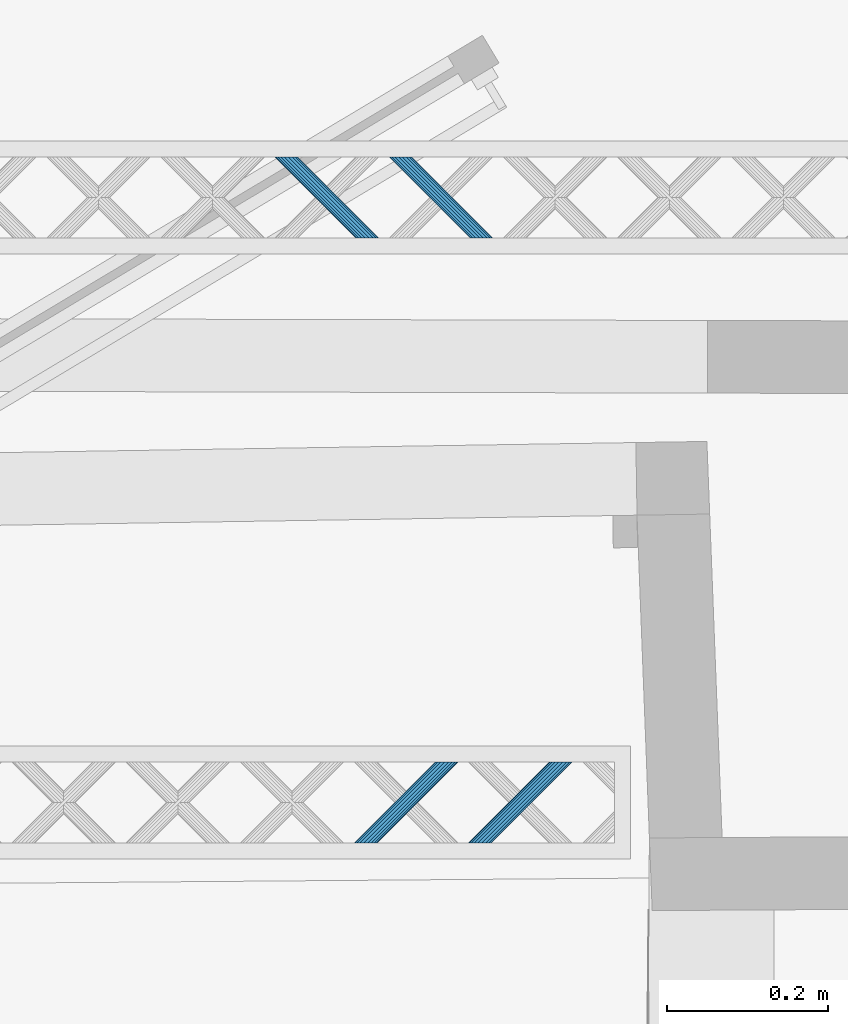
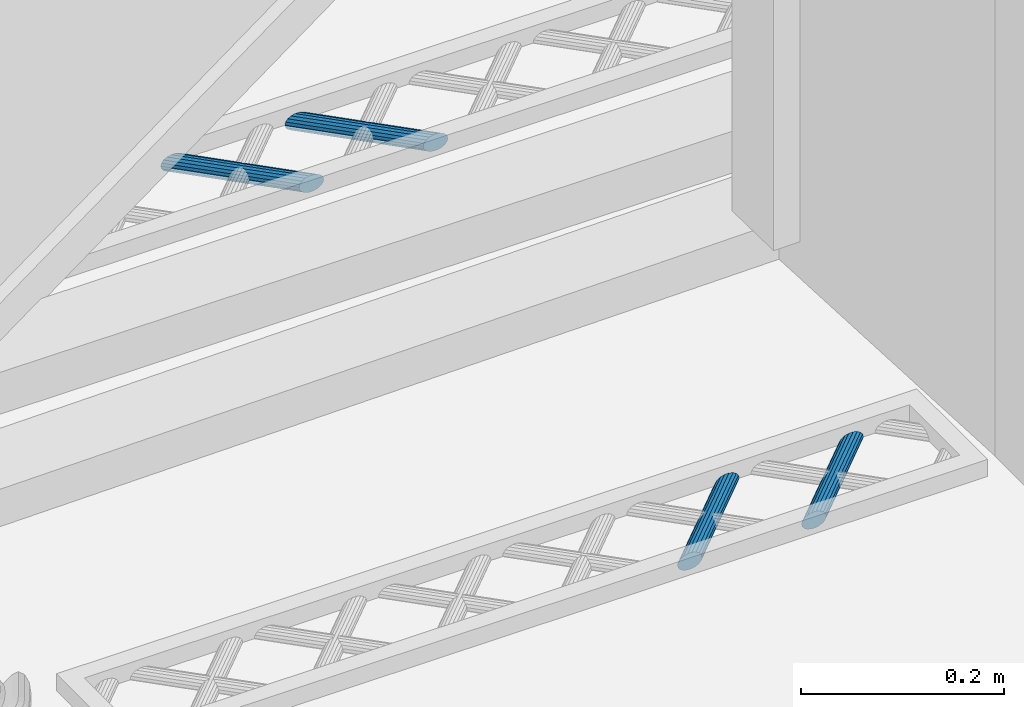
# One storey, part 70 of 133: 4 members, 2 elements without a shape of their own.
"""IFC2X3 building model written with IfcOpenShell, lengths in centimetres."""

from ifc_helpers import new_model, entity, si_unit, converted_unit, direction, frame, origin, origin_with_axes, place, context, subcontext, project, spatial, faceted_brep, material, type_object, element, aggregate, save


model = new_model("IFC2X3")

# Units and contexts
model_context = context("Model", 3, precision=0.0001, world=origin(), true_north=direction((0.225632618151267, 0.974212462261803, 0.0)))
body_context = subcontext(model_context, "Body", "Model", "MODEL_VIEW")
ifc_project = project(units=[si_unit("LENGTHUNIT", "METRE", prefix="CENTI"), si_unit("AREAUNIT", "SQUARE_METRE", prefix="CENTI"), si_unit("VOLUMEUNIT", "CUBIC_METRE", prefix="CENTI"), converted_unit("PLANEANGLEUNIT", "DEGREE", entity("IfcRatioMeasure", 0.0174532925), si_unit("PLANEANGLEUNIT", "RADIAN"), dimensions=[0, 0, 0, 0, 0, 0, 0])], contexts=[model_context])

# Site, building, storey
site_placement = place(None, origin_with_axes())
site = spatial("IfcSite", under=ifc_project, at=site_placement, Name="Default Site", CompositionType="ELEMENT")
building_placement = place(site_placement, origin_with_axes())
building = spatial("IfcBuilding", under=site, at=building_placement, Name="Default Building", CompositionType="ELEMENT")
storey_placement = place(building_placement, frame((0.0, 0.0, -291.400371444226), z_axis=(0.0, 0.0, 1.0), x_axis=(1.0, 0.0, 0.0)))
storey = spatial("IfcBuildingStorey", under=building, at=storey_placement, Name="Rez-de-Jardin", CompositionType="ELEMENT", Elevation=-291.400371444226)

# Assembly, members
building_element_proxy_type = type_object("IfcBuildingElementProxyType", Name="Type Object", PredefinedType="NOTDEFINED")
assembly_1_placement = place(storey_placement, frame((-322.682568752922, 627.125798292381, 0.0), z_axis=(0.0, 1.0, -2.38697950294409e-15), x_axis=(1.0, 0.0, 0.0)))
assembly_1 = element("IfcElementAssembly", 1, at=assembly_1_placement, inside=storey, type_object=building_element_proxy_type, Name="Panneau 92029", ObjectType="Precast panel", PredefinedType="USERDEFINED")
ifc_material = material(Name="Aluminium satiné")
member_1_placement = place(assembly_1_placement, frame((148.884272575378, 0.342020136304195, 1.99999995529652), z_axis=(1.16938344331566e-15, 1.43215300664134e-15, -1.0), x_axis=(-0.632467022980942, -0.774587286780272, -1.84892397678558e-15)))
member_1 = element("IfcMember", 2, at=member_1_placement, material=ifc_material, Name="4294966806", context=body_context, shape_type="Brep", body=[
    faceted_brep([(-4.44089209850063e-14, 4.44089209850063e-14, 1.74860126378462e-13), (-0.388293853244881, 4.44089209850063e-14, 1.75578052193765e-13), (-0.799168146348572, -0.150237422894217, 1.76337727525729e-13), (-1.18307839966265, -0.432607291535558, 1.77047548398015e-13), (-1.49371723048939, -0.813049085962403, 1.77621895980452e-13), (-1.69361285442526, -1.24567082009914, 1.77991487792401e-13), (-1.7586603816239, -1.67829855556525, 1.78111755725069e-13), (-1.68100535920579, -2.05874034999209, 1.77968177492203e-13), (-1.47002670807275, -2.34112464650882, 1.77578094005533e-13), (-1.15115646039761, -2.49137326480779, 1.76988527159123e-13), (-0.762870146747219, -2.49138249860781, 1.76270615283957e-13), (-0.351988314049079, -2.34113584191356, 1.75510926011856e-13), (0.0319219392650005, -2.05876597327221, 1.7480110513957e-13), (0.342560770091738, -1.67832417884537, 1.74226757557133e-13), (0.542456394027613, -1.24570244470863, 1.73857165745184e-13), (0.6074963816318, -0.813083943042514, 1.73736911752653e-13), (0.529848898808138, -0.432632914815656, 1.73880476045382e-13), (0.318862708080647, -0.150257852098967, 1.74270573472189e-13), (6.64353444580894, 7.59561686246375, -9.99999977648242), (6.85451309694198, 7.31323256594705, -9.99999977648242), (6.93216811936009, 6.9327907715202, -9.99999977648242), (6.86712059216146, 6.50016303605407, -9.99999977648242), (6.66722496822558, 6.06754130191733, -9.99999977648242), (6.35659367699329, 5.6871087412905, -9.99999977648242), (5.97268342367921, 5.40473887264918, -9.99999977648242), (5.56180159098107, 5.25449221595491, -9.99999977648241), (5.17351527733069, 5.25450144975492, -9.99999977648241), (4.85464502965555, 5.40475006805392, -9.99999977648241), (4.6436663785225, 5.68713436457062, -9.99999977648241), (4.56601135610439, 6.06757615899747, -9.99999977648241), (4.63105888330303, 6.5002038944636, -9.99999977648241), (4.83095450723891, 6.93282562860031, -9.99999977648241), (5.14158579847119, 7.31325818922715, -9.99999977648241), (5.52549605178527, 7.59562805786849, -9.99999977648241), (5.93637788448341, 7.74587471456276, -9.99999977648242), (6.3246641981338, 7.74586548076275, -9.99999977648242), (0.318862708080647, -0.150257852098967, 1.74513181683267e-13), (0.529846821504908, -0.432634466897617, -2.51604857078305e-06), (6.85451474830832, 7.31323379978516, -9.99999777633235), (6.64353340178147, 7.59561608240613, -10.0000010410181), (0.529848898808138, -0.432632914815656, 1.74166236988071e-13), (0.607499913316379, -0.813083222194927, 2.79203358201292e-06), (6.93217041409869, 6.93279123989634, -9.99999796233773), (6.85451751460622, 7.3132334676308, -9.9999962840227), (0.6074963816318, -0.813083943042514, 1.73819292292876e-13), (0.542453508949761, -1.24570201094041, -1.48872508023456e-06), (6.86712143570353, 6.50016290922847, -9.99999934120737), (6.93216707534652, 6.93279092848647, -10.0000003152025), (0.542456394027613, -1.24570244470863, 1.73819292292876e-13), (0.342560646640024, -1.67832412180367, -3.38951920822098e-08), (6.66722682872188, 6.0675404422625, -9.99999926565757), (6.86712257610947, 6.50016211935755, -9.9999992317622), (0.342560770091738, -1.67832417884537, 1.74166236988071e-13), (0.0319219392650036, -2.05876597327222, 1.74860126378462e-13), (6.3565936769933, 5.6871087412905, -9.99999977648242), (0.0319219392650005, -2.05876597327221, 1.74860126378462e-13), (-0.351988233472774, -2.34113595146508, -3.3895187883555e-08), (5.97268386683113, 5.40473827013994, -9.99999996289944), (6.3565940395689, 5.6871082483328, -9.99999992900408), (-0.351988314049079, -2.34113584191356, 1.75554015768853e-13), (-0.762870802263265, -2.49138070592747, 9.73995289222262e-07), (5.56180129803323, 5.25449301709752, -9.99999934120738), (5.97268378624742, 5.40473788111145, -10.0000003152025), (-0.762870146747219, -2.49138249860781, 1.76247905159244e-13), (-1.15115646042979, -2.49137543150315, -1.67831485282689e-06), (5.17351527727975, 5.25449802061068, -10.0000024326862), (5.56180159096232, 5.25449095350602, -10.0000007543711), (-1.15115646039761, -2.49137326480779, 1.7728873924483e-13), (-1.47002527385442, -2.34112160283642, 3.26468591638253e-06), (4.85464590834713, 5.40475193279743, -9.99999777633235), (5.17351472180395, 5.25450027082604, -10.0000010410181), (-1.47002670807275, -2.34112464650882, 1.77635683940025e-13), (-1.6810080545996, -2.05874236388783, -3.26468555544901e-06), (4.64366263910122, 5.68713157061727, -10.0000043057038), (4.85464398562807, 5.4047492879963, -10.0000010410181), (-1.68100535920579, -2.05874034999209, 1.7798262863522e-13), (-1.75865825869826, -1.67829812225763, 1.67831521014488e-06), (4.56601224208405, 6.06757633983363, -9.9999990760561), (4.64366514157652, 5.68713411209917, -10.0000007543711), (-1.7586603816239, -1.67829855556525, 1.78329573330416e-13), (-1.69361474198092, -1.24567053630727, -9.73994948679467e-07), (4.6310559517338, 6.50020433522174, -10.0000012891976), (4.56601031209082, 6.06757631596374, -10.0000003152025), (-1.69361285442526, -1.24567082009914, 1.78329573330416e-13), (-1.49371710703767, -0.813049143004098, 3.38955438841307e-08), (4.83095407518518, 6.93282582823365, -9.99999989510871), (4.6310583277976, 6.50020415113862, -9.99999992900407), (-1.49371723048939, -0.813049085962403, 1.77635683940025e-13), (-1.18307839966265, -0.432607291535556, 1.76941794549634e-13), (5.14158579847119, 7.31325818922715, -9.99999977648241), (-1.18307839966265, -0.432607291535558, 1.76941794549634e-13), (-0.799168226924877, -0.150237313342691, 3.3895540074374e-08), (5.52549467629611, 7.59562992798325, -9.99999919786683), (5.14158450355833, 7.31325994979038, -9.9999992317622), (-0.799168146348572, -0.150237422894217, 1.76594849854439e-13), (-0.388294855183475, 2.7400635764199e-06, 1.48872543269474e-06), (5.93637724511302, 7.74587646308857, -9.99999882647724), (5.52549475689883, 7.59563159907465, -9.99999785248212), (-0.388293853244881, 4.44089209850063e-14, 1.75900960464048e-13), (-5.35808416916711e-11, -3.60449953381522e-06, -2.7920332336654e-06), (6.32466419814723, 7.74586638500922, -9.99999907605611), (5.93637788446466, 7.74587345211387, -10.0000007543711), (0.318863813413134, -0.150255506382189, 2.51604891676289e-06), (6.64353499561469, 7.59561802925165, -9.99999852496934), (6.32466618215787, 7.74586969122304, -9.99999526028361)], [[[0, 1, 2, 3, 4, 5, 6, 7, 8, 9, 10, 11, 12, 13, 14, 15, 16, 17]], [[18, 19, 20, 21, 22, 23, 24, 25, 26, 27, 28, 29, 30, 31, 32, 33, 34, 35]], [[36, 37, 38, 39]], [[40, 41, 42, 43]], [[44, 45, 46, 47]], [[48, 49, 50, 51]], [[52, 53, 54, 22]], [[55, 56, 57, 58]], [[59, 60, 61, 62]], [[63, 64, 65, 66]], [[67, 68, 69, 70]], [[71, 72, 73, 74]], [[75, 76, 77, 78]], [[79, 80, 81, 82]], [[83, 84, 85, 86]], [[87, 88, 89, 31]], [[90, 91, 92, 93]], [[94, 95, 96, 97]], [[98, 99, 100, 101]], [[0, 102, 103, 104]]]),
])
member_2_placement = place(assembly_1_placement, frame((134.742140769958, 0.342020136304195, 1.99999995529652), z_axis=(1.16937209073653e-15, 1.43220862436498e-15, -1.0), x_axis=(-0.632448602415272, -0.774602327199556, -1.84895987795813e-15)))
member_2 = element("IfcMember", 3, at=member_2_placement, material=ifc_material, Name="4294966805", context=body_context, shape_type="Brep", body=[
    faceted_brep([(-3.33066907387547e-14, 4.44089209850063e-14, 1.56819002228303e-13), (-0.388286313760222, 4.44089209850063e-14, 1.57536928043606e-13), (-0.799164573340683, -0.150256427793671, 1.58296625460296e-13), (-1.18306811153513, -0.43263542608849, 1.59006447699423e-13), (-1.49369789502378, -0.813084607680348, 1.59580789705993e-13), (-1.69358323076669, -1.24571109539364, 1.59950369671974e-13), (-1.75862046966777, -1.67834037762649, 1.60070620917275e-13), (-1.68095640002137, -2.05878032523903, 1.5992702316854e-13), (-1.46996349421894, -2.3411503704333, 1.59536905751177e-13), (-1.15109721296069, -2.49140063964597, 1.58947334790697e-13), (-0.762810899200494, -2.49140063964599, 1.58229408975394e-13), (-0.351932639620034, -2.34114421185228, 1.57469711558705e-13), (0.0319708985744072, -2.05876521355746, 1.56759889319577e-13), (0.342600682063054, -1.6783160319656, 1.56185547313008e-13), (0.542486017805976, -1.2456895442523, 1.55815967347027e-13), (0.607523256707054, -0.81306026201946, 1.55695716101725e-13), (0.529859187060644, -0.432620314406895, 1.55839313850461e-13), (0.318866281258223, -0.150250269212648, 1.56229431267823e-13), (6.6433538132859, 7.59577484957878, -9.99999977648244), (6.85434671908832, 7.31340480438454, -9.99999977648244), (6.93200324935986, 6.93295562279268, -9.99999977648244), (6.86697354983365, 6.50033557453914, -9.99999977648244), (6.66708821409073, 6.06770908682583, -9.99999977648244), (6.35645843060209, 5.68725990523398, -9.99999977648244), (5.97255489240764, 5.40488090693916, -9.99999977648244), (5.56167663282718, 5.25462447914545, -9.99999977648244), (5.17339031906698, 5.25462447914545, -9.99999977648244), (4.85451649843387, 5.40486551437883, -9.99999977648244), (4.64353113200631, 5.68724479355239, -9.99999977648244), (4.56586706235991, 6.06768474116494, -9.99999977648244), (4.63090430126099, 6.50031402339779, -9.99999977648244), (4.8307896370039, 6.93294051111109, -9.99999977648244), (5.14141942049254, 7.31338969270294, -9.99999977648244), (5.525322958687, 7.59576869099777, -9.99999977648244), (5.93619367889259, 7.74601588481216, -9.99999977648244), (6.32448753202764, 7.74602511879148, -9.99999977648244), (0.318866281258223, -0.150250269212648, 1.56472057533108e-13), (0.529857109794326, -0.432621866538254, -2.51604858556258e-06), (6.85434359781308, 7.31340247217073, -10.0000035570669), (6.64335276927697, 7.59577406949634, -10.0000010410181), (0.529859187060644, -0.432620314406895, 1.56125112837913e-13), (0.607521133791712, -0.813060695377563, -1.67831488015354e-06), (6.93200554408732, 6.93295609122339, -9.99999796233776), (6.85434548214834, 7.31340455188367, -10.0000007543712), (0.607523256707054, -0.81306026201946, 1.55778168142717e-13), (0.542487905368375, -1.24568982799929, 9.73995281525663e-07), (6.86697439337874, 6.5003354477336, -9.9999993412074), (6.93200697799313, 6.93295506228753, -9.99999785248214), (0.542486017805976, -1.2456895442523, 1.55778168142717e-13), (0.342600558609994, -1.67831597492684, -3.38952070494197e-08), (6.66708753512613, 6.06770940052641, -9.99999996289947), (6.86697299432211, 6.50033583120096, -9.9999999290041), (0.342600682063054, -1.6783160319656, 1.56472057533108e-13), (0.0319708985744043, -2.05876521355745, 1.56819002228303e-13), (6.35645843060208, 5.68725990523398, -9.99999977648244), (0.0319708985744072, -2.05876521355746, 1.56819002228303e-13), (-0.351932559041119, -2.34114432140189, -3.38952079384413e-08), (5.97255533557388, 5.40488030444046, -9.99999996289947), (6.35645879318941, 5.68725941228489, -9.9999999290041), (-0.351932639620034, -2.34114421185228, 1.57512891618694e-13), (-0.762811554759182, -2.49139884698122, 9.73995285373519e-07), (5.56167633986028, 5.25462528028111, -9.9999993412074), (5.97255525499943, 5.40487991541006, -10.0000003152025), (-0.762810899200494, -2.49140063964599, 1.58206781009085e-13), (-1.15109721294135, -2.49140280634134, -1.67831488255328e-06), (5.1733903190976, 5.2546210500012, -10.0000024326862), (5.56167663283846, 5.25462321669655, -10.0000007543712), (-1.15109721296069, -2.49140063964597, 1.59247615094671e-13), (-1.46996459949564, -2.34115271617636, -2.51604857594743e-06), (4.85451737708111, 5.40486737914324, -9.99999777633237), (5.17338976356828, 5.25462330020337, -10.0000010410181), (-1.46996349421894, -2.3411503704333, 1.59594559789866e-13), (-1.68095432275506, -2.05877877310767, 2.5160488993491e-06), (4.6435321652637, 5.68724556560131, -9.99999852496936), (4.85452022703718, 5.40486830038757, -9.99999526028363), (-1.68095640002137, -2.05878032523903, 1.59941504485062e-13), (-1.75861834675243, -1.67833994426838, 1.67831519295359e-06), (4.56586794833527, 6.06768492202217, -9.99999907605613), (4.64352989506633, 5.68724454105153, -10.0000007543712), (-1.75862046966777, -1.67834037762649, 1.60288449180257e-13), (-1.69358511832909, -1.24571081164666, -9.73994965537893e-07), (4.63090136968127, 6.50031446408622, -10.0000012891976), (4.56586601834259, 6.06768489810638, -10.0000003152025), (-1.69358323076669, -1.24571109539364, 1.60288449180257e-13), (-1.49369777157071, -0.813084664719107, 3.38955255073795e-08), (4.83078920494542, 6.93294071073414, -9.99999989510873), (4.63090374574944, 6.50031428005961, -9.9999999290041), (-1.49369789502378, -0.813084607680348, 1.59594559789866e-13), (-1.18306811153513, -0.432635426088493, 1.59247615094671e-13), (5.14141942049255, 7.31338969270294, -9.99999977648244), (-1.18306811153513, -0.43263542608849, 1.59247615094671e-13), (-0.799164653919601, -0.150256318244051, 3.3895525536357e-08), (5.52532324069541, 7.5957683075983, -9.99999989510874), (5.14141978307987, 7.31338919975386, -9.9999999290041), (-0.799164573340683, -0.150256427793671, 1.5855372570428e-13), (-0.388285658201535, -1.79266472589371e-06, -9.73994969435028e-07), (5.93619303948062, 7.74601763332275, -9.99999882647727), (5.52532332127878, 7.59576769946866, -10.0000003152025), (-0.388286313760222, 4.44089209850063e-14, 1.57859836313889e-13), (-1.93780784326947e-11, 2.16669540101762e-06, 1.67831518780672e-06), (6.32448753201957, 7.74602602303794, -9.99999907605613), (5.93619367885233, 7.74602039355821, -9.99999628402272), (0.318867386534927, -0.150247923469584, 2.5160488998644e-06), (6.6433543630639, 7.59577601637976, -9.99999852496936), (6.32448697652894, 7.74602393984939, -10.0000010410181)], [[[0, 1, 2, 3, 4, 5, 6, 7, 8, 9, 10, 11, 12, 13, 14, 15, 16, 17]], [[18, 19, 20, 21, 22, 23, 24, 25, 26, 27, 28, 29, 30, 31, 32, 33, 34, 35]], [[36, 37, 38, 39]], [[40, 41, 42, 43]], [[44, 45, 46, 47]], [[48, 49, 50, 51]], [[52, 53, 54, 22]], [[55, 56, 57, 58]], [[59, 60, 61, 62]], [[63, 64, 65, 66]], [[67, 68, 69, 70]], [[71, 72, 73, 74]], [[75, 76, 77, 78]], [[79, 80, 81, 82]], [[83, 84, 85, 86]], [[87, 88, 89, 31]], [[90, 91, 92, 93]], [[94, 95, 96, 97]], [[98, 99, 100, 101]], [[0, 102, 103, 104]]]),
])
aggregate(assembly_1, [member_1, member_2])

assembly_2_placement = place(storey_placement, frame((-251.995147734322, 552.177521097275, 0.0), z_axis=(0.0, 1.0, -2.38697950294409e-15), x_axis=(1.0, 0.0, 0.0)))
assembly_2 = element("IfcElementAssembly", 4, at=assembly_2_placement, inside=storey, type_object=building_element_proxy_type, Name="Panneau 92047", ObjectType="Precast panel", PredefinedType="USERDEFINED")
member_3_placement = place(assembly_2_placement, frame((76.5421271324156, 0.342020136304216, 11.9999997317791), z_axis=(1.16937209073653e-15, -1.43220862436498e-15, 1.0), x_axis=(0.632448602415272, -0.774602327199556, -1.84895987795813e-15)))
member_3 = element("IfcMember", 5, at=member_3_placement, material=ifc_material, Name="4294966749", context=body_context, shape_type="Brep", body=[
    faceted_brep([(3.33066907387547e-14, -4.44089209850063e-14, -8.32667268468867e-14), (-0.38828631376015, -4.44089209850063e-14, -8.39846526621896e-14), (-0.799164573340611, -0.150256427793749, -8.47443500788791e-14), (-1.18306811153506, -0.432635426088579, -8.54541723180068e-14), (-1.49369412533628, -0.813079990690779, -8.60285073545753e-14), (-1.6935794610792, -1.24570647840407, -8.63980873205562e-14), (-1.75861293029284, -1.67833114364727, -8.65183315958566e-14), (-1.68095263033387, -2.05877570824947, -8.63747408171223e-14), (-1.46996349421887, -2.34115037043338, -8.59846303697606e-14), (-1.15109344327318, -2.49139602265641, -8.53950524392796e-14), (-0.76280335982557, -2.49139140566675, -8.46771196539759e-14), (-0.351928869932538, -2.34113959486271, -8.39174292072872e-14), (0.0319746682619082, -2.05876059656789, -8.32076069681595e-14), (0.342600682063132, -1.67831603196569, -8.2633271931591e-14), (0.542486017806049, -1.24568954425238, -8.22636919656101e-14), (0.607523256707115, -0.813060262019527, -8.21434407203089e-14), (0.529859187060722, -0.432620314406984, -8.2287038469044e-14), (0.318870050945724, -0.15024565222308, -8.26771489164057e-14), (-6.00561371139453, -7.89626615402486, -9.99999977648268), (-5.79462457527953, -8.17864081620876, -9.99999977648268), (-5.71696427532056, -8.55908538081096, -9.99999977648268), (-5.78199774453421, -8.99171004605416, -9.99999977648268), (-5.98188308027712, -9.42433653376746, -9.99999977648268), (-6.29251286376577, -9.80478571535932, -9.99999977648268), (-6.67641640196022, -10.0871647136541, -9.99999977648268), (-7.08729089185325, -10.2374165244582, -9.99999977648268), (-7.47558097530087, -10.2374211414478, -9.99999977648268), (-7.79445102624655, -10.0871754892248, -9.99999977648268), (-8.00544016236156, -9.80480082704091, -9.99999977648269), (-8.08310046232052, -9.4243562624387, -9.99999977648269), (-8.01806699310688, -8.9917315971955, -9.99999977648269), (-7.81818165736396, -8.5591051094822, -9.99999977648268), (-7.50755187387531, -8.17865592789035, -9.99999977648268), (-7.12364833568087, -7.89627692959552, -9.99999977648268), (-6.71277384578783, -7.74602511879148, -9.99999977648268), (-6.32448376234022, -7.74602050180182, -9.99999977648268), (0.318870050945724, -0.15024565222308, -8.18789480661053e-14), (0.52985949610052, -0.432620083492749, -3.74318575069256e-07), (-5.79462560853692, -8.17864158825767, -9.9999985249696), (-6.00561505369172, -7.896267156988, -9.99999815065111), (0.529859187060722, -0.432620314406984, -8.32667268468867e-14), (0.607521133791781, -0.813060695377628, 1.67831494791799e-06), (-5.71696516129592, -8.55908556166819, -9.99999907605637), (-5.79462616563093, -8.17864114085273, -9.99999851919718), (0.607523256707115, -0.813060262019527, -8.18789480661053e-14), (0.542487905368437, -1.24568982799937, -9.73995202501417e-07), (-5.78199719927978, -8.99171012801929, -10.0000000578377), (-5.71696323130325, -8.5590855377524, -10.0000003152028), (0.542486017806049, -1.24568954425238, -8.18789480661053e-14), (0.342600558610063, -1.67831597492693, 3.38952838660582e-08), (-5.98188391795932, -9.42433614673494, -9.99999954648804), (-5.78199845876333, -8.9917097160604, -9.9999995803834), (0.342600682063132, -1.67831603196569, -8.18789480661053e-14), (0.0319746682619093, -2.05876059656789, -8.32667268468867e-14), (-5.98188308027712, -9.42433653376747, -9.99999977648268), (0.0319746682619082, -2.05876059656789, -8.32667268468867e-14), (-0.351928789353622, -2.34113970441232, 3.38952829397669e-08), (-6.67641668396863, -10.0871643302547, -9.99999989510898), (-6.29251322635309, -9.80478522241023, -9.99999992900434), (-0.351928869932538, -2.34113959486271, -8.32667268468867e-14), (-0.762803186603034, -2.49139187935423, 2.57364982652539e-07), (-7.0872910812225, -10.2374160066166, -10.0000000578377), (-6.676416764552, -10.087163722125, -10.0000003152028), (-0.76280335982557, -2.49139140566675, -8.46545056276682e-14), (-1.1510934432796, -2.4913953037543, -5.56859275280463e-07), (-7.47558097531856, -10.2374191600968, -10.0000013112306), (-7.08729089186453, -10.2374152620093, -10.0000007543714), (-1.15109344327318, -2.49139602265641, -8.60422844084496e-14), (-1.46996332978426, -2.34115002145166, -3.74318580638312e-07), (-7.79445030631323, -10.087173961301, -10.0000014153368), (-7.47558041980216, -10.2374199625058, -10.0000010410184), (-1.46996349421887, -2.34115037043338, -8.60422844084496e-14), (-1.68095293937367, -2.05877593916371, 3.74318406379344e-07), (-8.00543942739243, -9.80480027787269, -10.0000006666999), (-7.79444998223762, -10.0871747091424, -10.0000010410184), (-1.68095263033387, -2.05877570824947, -8.60422844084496e-14), (-1.75861363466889, -1.67833128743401, 5.56859102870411e-07), (-8.08309992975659, -9.42435615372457, -10.0000001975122), (-8.00543892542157, -9.80480057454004, -10.0000007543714), (-1.75861293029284, -1.67833114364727, -8.74300631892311e-14), (-1.6935789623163, -1.24570655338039, -2.57365155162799e-07), (-8.01806545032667, -8.99173182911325, -10.0000005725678), (-8.0830994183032, -9.42435641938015, -10.0000003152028), (-1.6935794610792, -1.24570647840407, -8.60422844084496e-14), (-1.49369400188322, -0.813080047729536, -3.38954506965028e-08), (-7.81818097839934, -8.55910542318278, -9.99999996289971), (-8.01806643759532, -8.99173185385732, -9.99999992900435), (-1.49369412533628, -0.813079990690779, -8.60422844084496e-14), (-1.18306811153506, -0.432635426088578, -8.46545056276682e-14), (-7.50755187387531, -8.17865592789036, -9.99999977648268), (-7.81818165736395, -8.55910510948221, -9.99999977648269), (-1.18306811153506, -0.432635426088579, -8.46545056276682e-14), (-0.799164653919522, -0.150256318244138, -3.38954487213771e-08), (-7.12364795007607, -7.8962774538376, -9.99999961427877), (-7.50755140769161, -8.17865656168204, -9.9999995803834), (-0.799164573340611, -0.150256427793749, -8.46545056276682e-14), (-0.388285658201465, -1.79266480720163e-06, 9.73995038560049e-07), (-6.71277355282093, -7.74602591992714, -9.99999934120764), (-7.12364786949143, -7.89627820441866, -9.99999908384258), (-0.38828631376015, -4.44089209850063e-14, -8.46545056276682e-14), (-1.93114650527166e-11, 2.16669531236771e-06, -1.67831511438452e-06), (-6.32448376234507, -7.74601995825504, -10.0000001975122), (-6.7127738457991, -7.74602385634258, -10.0000007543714), (0.318869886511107, -0.150246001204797, 3.74318412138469e-07), (-6.00561459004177, -7.89626801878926, -9.99999777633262), (-6.32448447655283, -7.74602201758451, -9.99999815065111)], [[[0, 1, 2, 3, 4, 5, 6, 7, 8, 9, 10, 11, 12, 13, 14, 15, 16, 17]], [[18, 19, 20, 21, 22, 23, 24, 25, 26, 27, 28, 29, 30, 31, 32, 33, 34, 35]], [[36, 37, 38, 39]], [[40, 41, 42, 43]], [[44, 45, 46, 47]], [[48, 49, 50, 51]], [[52, 53, 23, 54]], [[55, 56, 57, 58]], [[59, 60, 61, 62]], [[63, 64, 65, 66]], [[67, 68, 69, 70]], [[71, 72, 73, 74]], [[75, 76, 77, 78]], [[79, 80, 81, 82]], [[83, 84, 85, 86]], [[87, 88, 89, 90]], [[91, 92, 93, 94]], [[95, 96, 97, 98]], [[99, 100, 101, 102]], [[0, 103, 104, 105]]]),
])
member_4_placement = place(assembly_2_placement, frame((90.6842648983, 0.342020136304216, 11.9999997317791), z_axis=(1.16937776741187e-15, -1.43218081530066e-15, 1.0), x_axis=(0.632457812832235, -0.774594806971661, -1.84894192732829e-15)))
member_4 = element("IfcMember", 6, at=member_4_placement, material=ifc_material, Name="4294966748", context=body_context, shape_type="Brep", body=[
    faceted_brep([(2.22044604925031e-14, -4.44089209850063e-14, 1.11022302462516e-13), (-0.38829008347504, -3.33066907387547e-14, 1.10304376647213e-13), (-0.799166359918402, -0.150246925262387, 1.09544690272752e-13), (-1.1830732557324, -0.432621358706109, 1.08834868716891e-13), (-1.49370756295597, -0.813066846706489, 1.08260523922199e-13), (-1.69359804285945, -1.24569095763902, 1.07890938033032e-13), (-1.75863665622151, -1.67831484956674, 1.07770685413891e-13), (-1.68098087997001, -2.05876033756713, 1.07914266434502e-13), (-1.46999133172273, -2.34113289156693, 1.08304373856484e-13), (-1.15112683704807, -2.4913869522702, 1.08893935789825e-13), (-0.762836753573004, -2.49138695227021, 1.09611861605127e-13), (-0.351960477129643, -2.34114002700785, 1.10371547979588e-13), (0.0319464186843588, -2.05876559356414, 1.11081369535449e-13), (0.342580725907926, -1.67832010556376, 1.11655714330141e-13), (0.542471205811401, -1.24569599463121, 1.12025300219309e-13), (0.607509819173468, -0.813072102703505, 1.12145552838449e-13), (0.529854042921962, -0.432626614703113, 1.12001971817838e-13), (0.318868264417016, -0.150249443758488, 1.11611871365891e-13), (-6.00571137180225, -7.89619936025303, -9.99999977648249), (-5.7947255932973, -8.17857653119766, -9.99999977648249), (-5.71706604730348, -8.55901740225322, -9.99999977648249), (-5.78210843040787, -8.99164591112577, -9.99999977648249), (-5.98199891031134, -9.4242700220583, -9.99999977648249), (-6.29262944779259, -9.80471089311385, -9.99999977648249), (-6.67653634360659, -10.0870853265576, -9.99999977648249), (-7.08741262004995, -10.2373322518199, -9.99999977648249), (-7.47570270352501, -10.2373322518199, -9.99999977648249), (-7.794570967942, -10.0870828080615, -9.99999977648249), (-8.00555674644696, -9.80470563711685, -9.99999977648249), (-8.08321252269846, -9.42426014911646, -9.99999977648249), (-8.01817390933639, -8.99163625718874, -9.99999977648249), (-7.81828342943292, -8.55901214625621, -9.99999977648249), (-7.50765289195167, -8.17857127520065, -9.99999977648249), (-7.12374599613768, -7.89619684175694, -9.99999977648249), (-6.71286594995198, -7.74594529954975, -9.99999977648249), (-6.32457963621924, -7.74594991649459, -9.99999977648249), (0.318868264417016, -0.150249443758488, 1.11022302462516e-13), (0.529854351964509, -0.432626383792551, -3.74318384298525e-07), (-5.79472424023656, -8.17857552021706, -10.0000014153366), (-6.00571032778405, -7.896198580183, -10.0000010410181), (0.529854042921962, -0.432626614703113, 1.11022302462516e-13), (0.607510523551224, -0.813071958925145, -5.56859073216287e-07), (-5.71706693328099, -8.55901758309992, -9.99999907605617), (-5.79472435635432, -8.1785762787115, -10.0000007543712), (0.607509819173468, -0.813072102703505, 1.12410081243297e-13), (0.54247070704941, -1.24569591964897, 2.57365176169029e-07), (-5.78210788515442, -8.99164599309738, -10.0000000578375), (-5.71706738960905, -8.55901720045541, -9.99999908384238), (0.542471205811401, -1.24569599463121, 1.12410081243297e-13), (0.342580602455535, -1.67832004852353, 3.3895478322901e-08), (-5.98199847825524, -9.42427022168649, -9.99999989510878), (-5.78210787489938, -8.99164616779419, -9.99999992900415), (0.342580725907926, -1.67832010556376, 1.12410081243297e-13), (0.0319464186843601, -2.05876559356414, 1.11022302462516e-13), (-6.29262944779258, -9.80471089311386, -9.99999977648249), (0.0319464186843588, -2.05876559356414, 1.11022302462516e-13), (-0.351960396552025, -2.34114013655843, 3.38954785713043e-08), (-6.6765357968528, -10.0870860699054, -9.99999954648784), (-6.29262898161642, -9.80471152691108, -9.99999958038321), (-0.351960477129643, -2.34114002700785, 1.11022302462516e-13), (-0.762836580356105, -2.49138742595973, 2.57365170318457e-07), (-7.08741198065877, -10.2373340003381, -9.99999882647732), (-6.67653587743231, -10.0870866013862, -9.99999908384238), (-0.762836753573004, -2.49138695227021, 1.09634523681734e-13), (-1.15112683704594, -2.4913862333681, -5.56859074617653e-07), (-7.47570270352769, -10.2373331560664, -9.99999907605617), (-7.08741262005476, -10.2373338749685, -9.99999851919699), (-1.15112683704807, -2.4913869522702, 1.08246744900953e-13), (-1.46999243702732, -2.34113523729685, 2.51604884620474e-06), (-7.79457151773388, -10.0870839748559, -9.99999852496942), (-7.47570341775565, -10.2373337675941, -9.99999815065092), (-1.46999133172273, -2.34113289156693, 1.08246744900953e-13), (-1.68097880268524, -2.05875878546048, -2.51604863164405e-06), (-8.0055560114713, -9.80470508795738, -10.0000006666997), (-7.7945699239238, -10.0870820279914, -10.0000010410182), (-1.68098087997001, -2.05876033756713, 1.08246744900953e-13), (-1.75863736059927, -1.6783149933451, 5.56859292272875e-07), (-8.08321481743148, -9.42426061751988, -9.99999796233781), (-8.00555833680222, -9.80470596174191, -9.999998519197), (-1.75863665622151, -1.67831484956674, 1.06858966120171e-13), (-1.69359754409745, -1.24569103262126, -2.57364956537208e-07), (-8.01817475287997, -8.99163613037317, -9.99999934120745), (-8.08321386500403, -9.42425994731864, -9.99999908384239), (-1.69359804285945, -1.24569095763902, 1.08246744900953e-13), (-1.49370743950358, -0.813066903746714, -3.3895256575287e-08), (-7.81828402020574, -8.55901187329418, -9.99999961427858), (-8.0181746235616, -8.99163592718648, -9.99999958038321), (-1.49370756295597, -0.813066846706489, 1.08246744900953e-13), (-1.1830732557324, -0.432621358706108, 1.09634523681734e-13), (-1.1830732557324, -0.432621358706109, 1.09634523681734e-13), (-0.799166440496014, -0.150246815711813, -3.3895255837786e-08), (-7.12374643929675, -7.89619623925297, -9.99999996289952), (-7.50765325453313, -8.17857078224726, -9.99999992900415), (-0.799166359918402, -0.150246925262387, 1.09634523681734e-13), (-0.388290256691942, 4.73689493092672e-07, -2.57364954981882e-07), (-6.71286565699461, -7.7459461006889, -9.99999934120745), (-7.12374635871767, -7.89619585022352, -10.0000003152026), (-0.38829008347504, -3.33066907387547e-14, 1.09634523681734e-13), (-2.10742086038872e-12, -7.18902148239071e-07, 5.56859294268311e-07), (-6.32457963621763, -7.7459493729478, -10.000000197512), (-6.71286594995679, -7.74594692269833, -9.99999851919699), (0.318868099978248, -0.150249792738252, 3.74318607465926e-07), (-6.0057109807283, -7.89619853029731, -10.0000006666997), (-6.32457908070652, -7.74594873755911, -10.0000010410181)], [[[0, 1, 2, 3, 4, 5, 6, 7, 8, 9, 10, 11, 12, 13, 14, 15, 16, 17]], [[18, 19, 20, 21, 22, 23, 24, 25, 26, 27, 28, 29, 30, 31, 32, 33, 34, 35]], [[36, 37, 38, 39]], [[40, 41, 42, 43]], [[44, 45, 46, 47]], [[48, 49, 50, 51]], [[52, 53, 54, 22]], [[55, 56, 57, 58]], [[59, 60, 61, 62]], [[63, 64, 65, 66]], [[67, 68, 69, 70]], [[71, 72, 73, 74]], [[75, 76, 77, 78]], [[79, 80, 81, 82]], [[83, 84, 85, 86]], [[87, 88, 32, 31]], [[89, 90, 91, 92]], [[93, 94, 95, 96]], [[97, 98, 99, 100]], [[0, 101, 102, 103]]]),
])
aggregate(assembly_2, [member_3, member_4])

save(model, "model.ifc")
